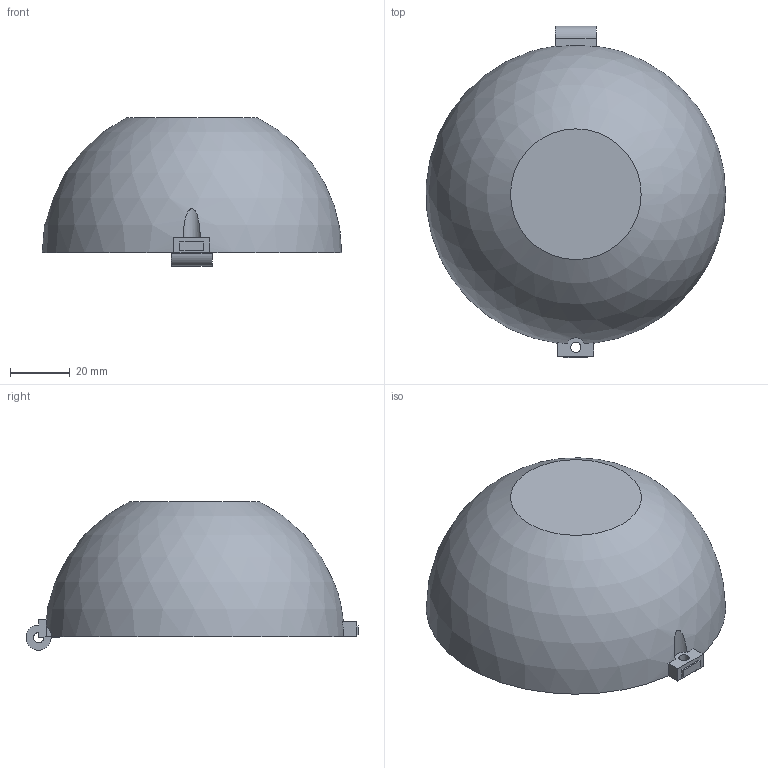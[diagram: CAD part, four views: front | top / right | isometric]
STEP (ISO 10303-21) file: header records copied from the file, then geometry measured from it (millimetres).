
FILE_DESCRIPTION(('Open CASCADE Model'),'2;1');
FILE_NAME('Open CASCADE Shape Model','2026-09-16T15:55:10',('Author'),( 'Open CASCADE'),'Open CASCADE STEP processor 7.9','Open CASCADE 7.9' ,'Unknown');
FILE_SCHEMA(('AUTOMOTIVE_DESIGN { 1 0 10303 214 1 1 1 1 }'));
Length unit declared in the file: millimetre
Products named in the file (1): Open CASCADE STEP translator 7.9 2
Bounding box: 99.88 x 110.75 x 49.5 mm (x, y, z)
Volume: 36887.2 mm3; surface area: 31371.1 mm2
Topology: 1 solids, 1 shells, 35 faces, 96 edges, 64 vertices
Faces by surface type: plane 27, cylinder 6, sphere 2
Full cylindrical faces by diameter (mm): 3.4 x1
Entity records: 2996 total; most frequent: CARTESIAN_POINT 1085, DIRECTION 352, ORIENTED_EDGE 192, PCURVE 192, DEFINITIONAL_REPRESENTATION 192, LINE 179, VECTOR 179, EDGE_CURVE 96
